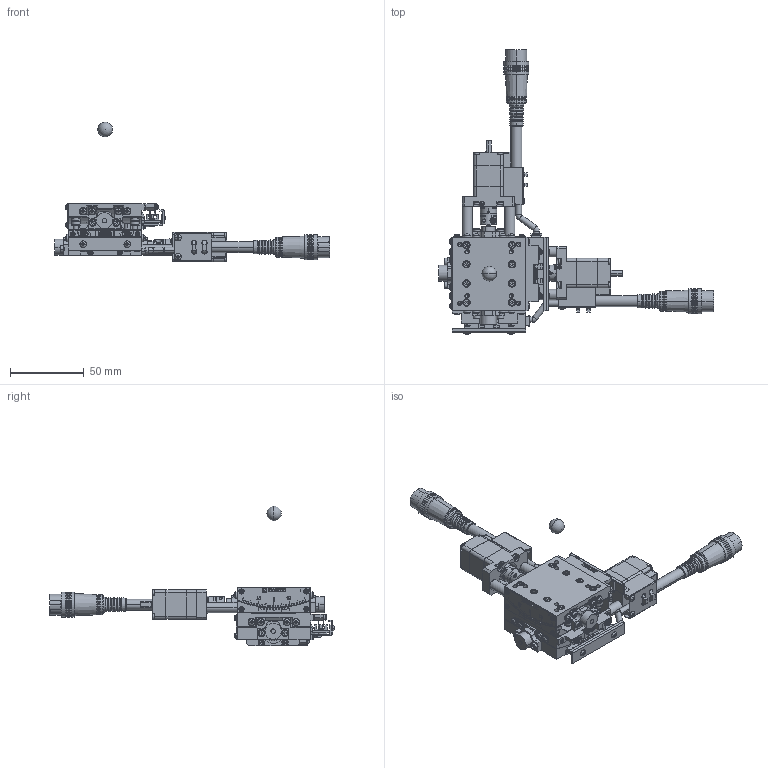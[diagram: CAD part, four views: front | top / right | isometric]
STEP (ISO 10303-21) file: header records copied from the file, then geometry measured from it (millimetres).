
FILE_DESCRIPTION (( 'STEP AP203' ), '1' );
FILE_NAME ('SA05A-R2S01-RRR.STEP', '2019-12-03T10:50:03', ( '' ), ( '' ), 'SwSTEP 2.0', 'SolidWorks 2018', '' );
FILE_SCHEMA (( 'CONFIG_CONTROL_DESIGN' ));
Products named in the file (12): SA05A-R2S01-RRR; rotation center; second table-Part-1; base-Part-1; second table; second table-Part-3; base; base-Part-3; second table-Part-4; base-Part-2; second table-Part-2; table
Assembly tree (10 placements, depth 3):
  SA05A-R2S01-RRR
    second table
      second table-Part-1
      second table-Part-2
      second table-Part-3
    base
      base-Part-1
      base-Part-2
      base-Part-3
    table
    rotation center
  second table-Part-4
Bounding box: 187 x 193.68 x 95 mm (x, y, z)
Volume: 160931.9 mm3; surface area: 78833.4 mm2
Topology: 8 solids, 19 shells, 5082 faces, 12761 edges, 7911 vertices
Faces by surface type: plane 3200, cylinder 1092, cone 412, torus 268, sphere 98, bspline 12
Entity records: 156318 total; most frequent: CARTESIAN_POINT 31788, DIRECTION 26608, ORIENTED_EDGE 25176, EDGE_CURVE 12588, AXIS2_PLACEMENT_3D 9380, VERTEX_POINT 7896, VECTOR 7848, LINE 7848
